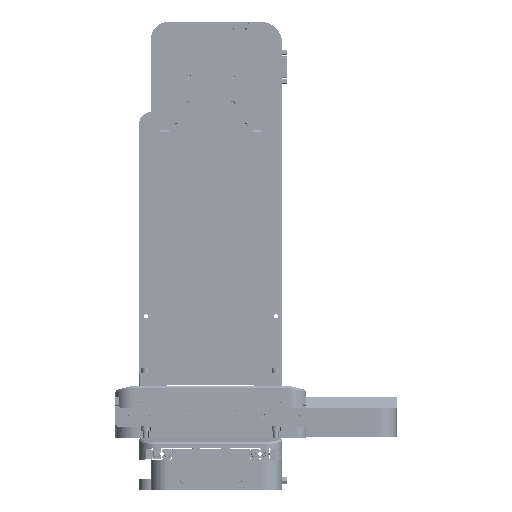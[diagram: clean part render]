
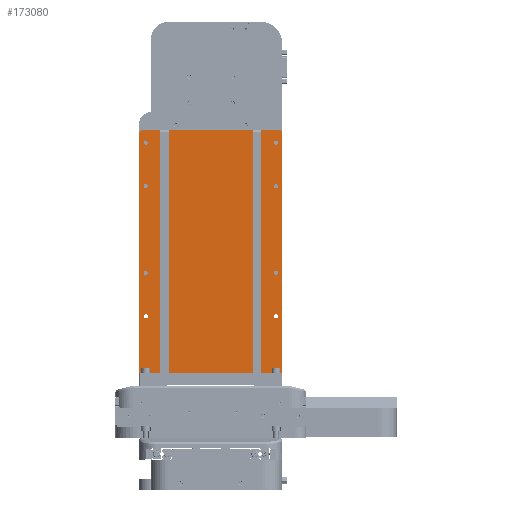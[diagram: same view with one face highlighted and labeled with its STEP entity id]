
A CAD part, left-side view. The second image highlights one B-rep face of the part: STEP entity #173080.
In plain terms, the highlighted planar face has unit normal (-1, 0, 0).
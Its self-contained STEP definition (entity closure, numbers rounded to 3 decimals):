
#12038=LINE('',#281452,#27196);
#12050=LINE('',#281476,#27208);
#12052=LINE('',#281480,#27210);
#12054=LINE('',#281483,#27212);
#12057=LINE('',#281489,#27215);
#12065=LINE('',#281505,#27223);
#12080=LINE('',#281681,#27238);
#12092=LINE('',#281704,#27250);
#13213=LINE('',#285838,#28371);
#13220=LINE('',#285851,#28378);
#13221=LINE('',#285853,#28379);
#13222=LINE('',#285856,#28380);
#13223=LINE('',#285858,#28381);
#13224=LINE('',#285859,#28382);
#27196=VECTOR('',#227456,4.243);
#27208=VECTOR('',#227470,21.5);
#27210=VECTOR('',#227472,96.);
#27212=VECTOR('',#227474,21.5);
#27215=VECTOR('',#227479,4.243);
#27223=VECTOR('',#227489,277.);
#27238=VECTOR('',#227696,277.);
#27250=VECTOR('',#227710,165.);
#28371=VECTOR('',#231477,277.);
#28378=VECTOR('',#231490,277.);
#28379=VECTOR('',#231493,10.);
#28380=VECTOR('',#231496,277.);
#28381=VECTOR('',#231497,10.);
#28382=VECTOR('',#231498,277.);
#39321=FACE_BOUND('',#62297,.T.);
#39322=FACE_BOUND('',#62298,.T.);
#39323=FACE_BOUND('',#62299,.T.);
#39324=FACE_BOUND('',#62300,.T.);
#39325=FACE_BOUND('',#62301,.T.);
#39326=FACE_BOUND('',#62302,.T.);
#39327=FACE_BOUND('',#62303,.T.);
#39328=FACE_BOUND('',#62304,.T.);
#48543=FACE_OUTER_BOUND('',#62296,.T.);
#62296=EDGE_LOOP('',(#147095,#147096,#147097,#147098,#147099,#147100,#147101,
#147102,#147103,#147104,#147105,#147106,#147107,#147108));
#62297=EDGE_LOOP('',(#147109));
#62298=EDGE_LOOP('',(#147110));
#62299=EDGE_LOOP('',(#147111));
#62300=EDGE_LOOP('',(#147112));
#62301=EDGE_LOOP('',(#147113));
#62302=EDGE_LOOP('',(#147114));
#62303=EDGE_LOOP('',(#147115));
#62304=EDGE_LOOP('',(#147116));
#70635=CIRCLE('',#187882,2.459);
#70637=CIRCLE('',#187885,2.458);
#70638=CIRCLE('',#187887,2.459);
#70639=CIRCLE('',#187889,2.458);
#70641=CIRCLE('',#187892,2.459);
#70643=CIRCLE('',#187895,2.458);
#70644=CIRCLE('',#187897,2.459);
#70645=CIRCLE('',#187899,2.458);
#83981=VERTEX_POINT('',#281450);
#83982=VERTEX_POINT('',#281451);
#83992=VERTEX_POINT('',#281473);
#83993=VERTEX_POINT('',#281475);
#83994=VERTEX_POINT('',#281477);
#83995=VERTEX_POINT('',#281479);
#83996=VERTEX_POINT('',#281481);
#83998=VERTEX_POINT('',#281487);
#84005=VERTEX_POINT('',#281503);
#84052=VERTEX_POINT('',#281623);
#84054=VERTEX_POINT('',#281628);
#84055=VERTEX_POINT('',#281631);
#84056=VERTEX_POINT('',#281634);
#84058=VERTEX_POINT('',#281639);
#84060=VERTEX_POINT('',#281644);
#84061=VERTEX_POINT('',#281647);
#84062=VERTEX_POINT('',#281650);
#84070=VERTEX_POINT('',#281680);
#85310=VERTEX_POINT('',#285836);
#85313=VERTEX_POINT('',#285849);
#85314=VERTEX_POINT('',#285855);
#85315=VERTEX_POINT('',#285857);
#104951=EDGE_CURVE('',#83981,#83982,#12038,.T.);
#104963=EDGE_CURVE('',#83993,#83992,#12050,.T.);
#104965=EDGE_CURVE('',#83995,#83994,#12052,.T.);
#104967=EDGE_CURVE('',#83981,#83996,#12054,.T.);
#104970=EDGE_CURVE('',#83998,#83992,#12057,.T.);
#104978=EDGE_CURVE('',#84005,#83998,#12065,.T.);
#105025=EDGE_CURVE('',#84052,#84052,#70635,.T.);
#105027=EDGE_CURVE('',#84054,#84054,#70637,.T.);
#105028=EDGE_CURVE('',#84055,#84055,#70638,.T.);
#105029=EDGE_CURVE('',#84056,#84056,#70639,.T.);
#105031=EDGE_CURVE('',#84058,#84058,#70641,.T.);
#105033=EDGE_CURVE('',#84060,#84060,#70643,.T.);
#105034=EDGE_CURVE('',#84061,#84061,#70644,.T.);
#105035=EDGE_CURVE('',#84062,#84062,#70645,.T.);
#105052=EDGE_CURVE('',#84070,#83982,#12080,.T.);
#105064=EDGE_CURVE('',#84070,#84005,#12092,.T.);
#106813=EDGE_CURVE('',#83994,#85310,#13213,.T.);
#106820=EDGE_CURVE('',#85313,#83993,#13220,.T.);
#106821=EDGE_CURVE('',#85310,#85313,#13221,.T.);
#106822=EDGE_CURVE('',#83996,#85314,#13222,.T.);
#106823=EDGE_CURVE('',#85314,#85315,#13223,.T.);
#106824=EDGE_CURVE('',#85315,#83995,#13224,.T.);
#147095=ORIENTED_EDGE('',*,*,#106822,.T.);
#147096=ORIENTED_EDGE('',*,*,#106823,.T.);
#147097=ORIENTED_EDGE('',*,*,#106824,.T.);
#147098=ORIENTED_EDGE('',*,*,#104965,.T.);
#147099=ORIENTED_EDGE('',*,*,#106813,.T.);
#147100=ORIENTED_EDGE('',*,*,#106821,.T.);
#147101=ORIENTED_EDGE('',*,*,#106820,.T.);
#147102=ORIENTED_EDGE('',*,*,#104963,.T.);
#147103=ORIENTED_EDGE('',*,*,#104970,.F.);
#147104=ORIENTED_EDGE('',*,*,#104978,.F.);
#147105=ORIENTED_EDGE('',*,*,#105064,.F.);
#147106=ORIENTED_EDGE('',*,*,#105052,.T.);
#147107=ORIENTED_EDGE('',*,*,#104951,.F.);
#147108=ORIENTED_EDGE('',*,*,#104967,.T.);
#147109=ORIENTED_EDGE('',*,*,#105035,.T.);
#147110=ORIENTED_EDGE('',*,*,#105034,.T.);
#147111=ORIENTED_EDGE('',*,*,#105033,.T.);
#147112=ORIENTED_EDGE('',*,*,#105031,.T.);
#147113=ORIENTED_EDGE('',*,*,#105029,.T.);
#147114=ORIENTED_EDGE('',*,*,#105028,.T.);
#147115=ORIENTED_EDGE('',*,*,#105027,.T.);
#147116=ORIENTED_EDGE('',*,*,#105025,.T.);
#163461=PLANE('',#189235);
#173080=ADVANCED_FACE('',(#48543,#39321,#39322,#39323,#39324,#39325,#39326,
#39327,#39328),#163461,.T.);
#187882=AXIS2_PLACEMENT_3D('',#281624,#227632,#227633);
#187885=AXIS2_PLACEMENT_3D('',#281629,#227638,#227639);
#187887=AXIS2_PLACEMENT_3D('',#281632,#227642,#227643);
#187889=AXIS2_PLACEMENT_3D('',#281635,#227646,#227647);
#187892=AXIS2_PLACEMENT_3D('',#281640,#227652,#227653);
#187895=AXIS2_PLACEMENT_3D('',#281645,#227658,#227659);
#187897=AXIS2_PLACEMENT_3D('',#281648,#227662,#227663);
#187899=AXIS2_PLACEMENT_3D('',#281651,#227666,#227667);
#189235=AXIS2_PLACEMENT_3D('',#285854,#231494,#231495);
#227456=DIRECTION('',(0.,-0.707,-0.707));
#227470=DIRECTION('',(0.,1.,0.));
#227472=DIRECTION('',(0.,1.,0.));
#227474=DIRECTION('',(0.,1.,0.));
#227479=DIRECTION('',(0.,-0.707,0.707));
#227489=DIRECTION('',(0.,0.,1.));
#227632=DIRECTION('center_axis',(1.,0.,0.));
#227633=DIRECTION('ref_axis',(0.,-1.,0.));
#227638=DIRECTION('center_axis',(1.,0.,0.));
#227639=DIRECTION('ref_axis',(0.,-1.,0.));
#227642=DIRECTION('center_axis',(1.,0.,0.));
#227643=DIRECTION('ref_axis',(0.,-1.,0.));
#227646=DIRECTION('center_axis',(1.,0.,0.));
#227647=DIRECTION('ref_axis',(0.,-1.,0.));
#227652=DIRECTION('center_axis',(1.,0.,0.));
#227653=DIRECTION('ref_axis',(0.,-1.,0.));
#227658=DIRECTION('center_axis',(1.,0.,0.));
#227659=DIRECTION('ref_axis',(0.,-1.,0.));
#227662=DIRECTION('center_axis',(1.,0.,0.));
#227663=DIRECTION('ref_axis',(0.,-1.,0.));
#227666=DIRECTION('center_axis',(1.,0.,0.));
#227667=DIRECTION('ref_axis',(0.,-1.,0.));
#227696=DIRECTION('',(0.,0.,1.));
#227710=DIRECTION('',(0.,1.,0.));
#231477=DIRECTION('',(0.,0.,-1.));
#231490=DIRECTION('',(0.,0.,1.));
#231493=DIRECTION('',(0.,1.,0.));
#231494=DIRECTION('center_axis',(-1.,0.,0.));
#231495=DIRECTION('ref_axis',(0.,0.,-1.));
#231496=DIRECTION('',(0.,0.,-1.));
#231497=DIRECTION('',(0.,1.,0.));
#231498=DIRECTION('',(0.,0.,1.));
#281450=CARTESIAN_POINT('',(2.5,-79.5,295.));
#281451=CARTESIAN_POINT('',(2.5,-82.5,292.));
#281452=CARTESIAN_POINT('',(2.5,-151.,223.5));
#281473=CARTESIAN_POINT('',(2.5,79.5,295.));
#281475=CARTESIAN_POINT('',(2.5,58.,295.));
#281476=CARTESIAN_POINT('',(2.5,82.5,295.));
#281477=CARTESIAN_POINT('',(2.5,48.,295.));
#281479=CARTESIAN_POINT('',(2.5,-48.,295.));
#281480=CARTESIAN_POINT('',(2.5,82.5,295.));
#281481=CARTESIAN_POINT('',(2.5,-58.,295.));
#281483=CARTESIAN_POINT('',(2.5,82.5,295.));
#281487=CARTESIAN_POINT('',(2.5,82.5,292.));
#281489=CARTESIAN_POINT('',(2.5,109.75,264.75));
#281503=CARTESIAN_POINT('',(2.5,82.5,15.));
#281505=CARTESIAN_POINT('',(2.5,82.5,15.));
#281623=CARTESIAN_POINT('',(2.5,-72.542,230.));
#281624=CARTESIAN_POINT('Origin',(2.5,-75.,230.));
#281628=CARTESIAN_POINT('',(2.5,77.459,280.));
#281629=CARTESIAN_POINT('Origin',(2.5,75.,280.));
#281631=CARTESIAN_POINT('',(2.5,-72.542,280.));
#281632=CARTESIAN_POINT('Origin',(2.5,-75.,280.));
#281634=CARTESIAN_POINT('',(2.5,77.459,230.));
#281635=CARTESIAN_POINT('Origin',(2.5,75.,230.));
#281639=CARTESIAN_POINT('',(2.5,-72.542,80.));
#281640=CARTESIAN_POINT('Origin',(2.5,-75.,80.));
#281644=CARTESIAN_POINT('',(2.5,77.459,130.));
#281645=CARTESIAN_POINT('Origin',(2.5,75.,130.));
#281647=CARTESIAN_POINT('',(2.5,-72.542,130.));
#281648=CARTESIAN_POINT('Origin',(2.5,-75.,130.));
#281650=CARTESIAN_POINT('',(2.5,77.459,80.));
#281651=CARTESIAN_POINT('Origin',(2.5,75.,80.));
#281680=CARTESIAN_POINT('',(2.5,-82.5,15.));
#281681=CARTESIAN_POINT('',(2.5,-82.5,15.));
#281704=CARTESIAN_POINT('',(2.5,-41.25,15.));
#285836=CARTESIAN_POINT('',(2.5,48.,18.));
#285838=CARTESIAN_POINT('',(2.5,48.,15.));
#285849=CARTESIAN_POINT('',(2.5,58.,18.));
#285851=CARTESIAN_POINT('',(2.5,58.,15.));
#285853=CARTESIAN_POINT('',(2.5,-13.5,18.));
#285854=CARTESIAN_POINT('Origin',(2.5,-82.5,15.));
#285855=CARTESIAN_POINT('',(2.5,-58.,18.));
#285856=CARTESIAN_POINT('',(2.5,-58.,15.));
#285857=CARTESIAN_POINT('',(2.5,-48.,18.));
#285858=CARTESIAN_POINT('',(2.5,-66.5,18.));
#285859=CARTESIAN_POINT('',(2.5,-48.,15.));
